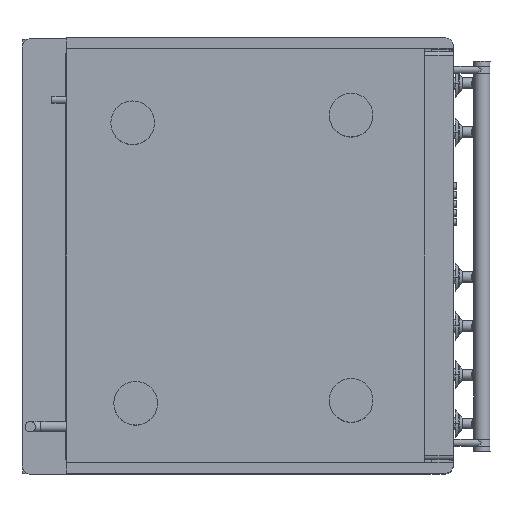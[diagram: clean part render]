
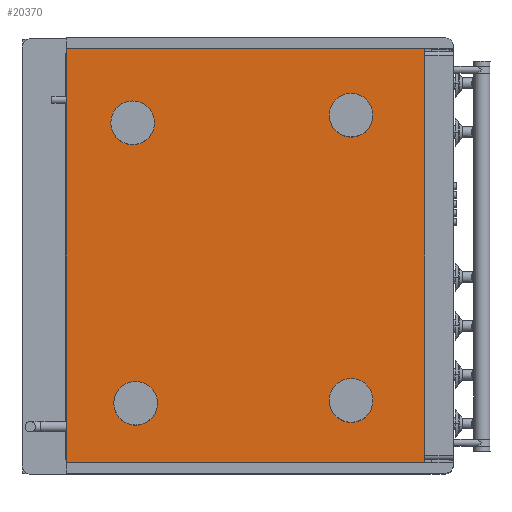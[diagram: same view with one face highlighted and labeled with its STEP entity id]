
A CAD part, top view. The second image highlights one B-rep face of the part: STEP entity #20370.
In plain terms, the highlighted planar face has unit normal (0, 0, 1).
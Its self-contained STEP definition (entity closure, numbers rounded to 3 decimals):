
#665=CIRCLE('',#21718,30.);
#666=CIRCLE('',#21719,30.);
#667=CIRCLE('',#21720,30.);
#668=CIRCLE('',#21721,30.);
#1148=PLANE('',#21717);
#2224=LINE('',#28980,#3516);
#2355=LINE('',#32001,#3647);
#2362=LINE('',#32023,#3654);
#2364=LINE('',#32067,#3656);
#3516=VECTOR('',#24681,1000.);
#3647=VECTOR('',#25440,1000.);
#3654=VECTOR('',#25461,1000.);
#3656=VECTOR('',#25493,1000.);
#7364=ORIENTED_EDGE('',*,*,#9735,.F.);
#7365=ORIENTED_EDGE('',*,*,#9736,.F.);
#7366=ORIENTED_EDGE('',*,*,#9737,.F.);
#7367=ORIENTED_EDGE('',*,*,#9738,.F.);
#7368=ORIENTED_EDGE('',*,*,#9734,.F.);
#7369=ORIENTED_EDGE('',*,*,#9723,.F.);
#7370=ORIENTED_EDGE('',*,*,#9712,.F.);
#7371=ORIENTED_EDGE('',*,*,#9347,.F.);
#9347=EDGE_CURVE('',#10935,#10936,#2224,.T.);
#9712=EDGE_CURVE('',#10936,#11202,#2355,.T.);
#9723=EDGE_CURVE('',#11202,#11211,#2362,.T.);
#9734=EDGE_CURVE('',#11211,#10935,#2364,.T.);
#9735=EDGE_CURVE('',#11221,#11221,#665,.F.);
#9736=EDGE_CURVE('',#11222,#11222,#666,.F.);
#9737=EDGE_CURVE('',#11223,#11223,#667,.F.);
#9738=EDGE_CURVE('',#11224,#11224,#668,.F.);
#10935=VERTEX_POINT('',#28979);
#10936=VERTEX_POINT('',#28981);
#11202=VERTEX_POINT('',#32000);
#11211=VERTEX_POINT('',#32024);
#11221=VERTEX_POINT('',#32070);
#11222=VERTEX_POINT('',#32072);
#11223=VERTEX_POINT('',#32074);
#11224=VERTEX_POINT('',#32076);
#12380=EDGE_LOOP('',(#7364));
#12381=EDGE_LOOP('',(#7365));
#12382=EDGE_LOOP('',(#7366));
#12383=EDGE_LOOP('',(#7367));
#12384=EDGE_LOOP('',(#7368,#7369,#7370,#7371));
#13387=FACE_BOUND('',#12380,.T.);
#13388=FACE_BOUND('',#12381,.T.);
#13389=FACE_BOUND('',#12382,.T.);
#13390=FACE_BOUND('',#12383,.T.);
#13391=FACE_BOUND('',#12384,.T.);
#20370=ADVANCED_FACE('',(#13387,#13388,#13389,#13390,#13391),#1148,.F.);
#21717=AXIS2_PLACEMENT_3D('',#32068,#25494,#25495);
#21718=AXIS2_PLACEMENT_3D('',#32069,#25496,#25497);
#21719=AXIS2_PLACEMENT_3D('',#32071,#25498,#25499);
#21720=AXIS2_PLACEMENT_3D('',#32073,#25500,#25501);
#21721=AXIS2_PLACEMENT_3D('',#32075,#25502,#25503);
#24681=DIRECTION('',(0.,1.,0.));
#25440=DIRECTION('',(1.,0.,0.));
#25461=DIRECTION('',(0.,-1.,0.));
#25493=DIRECTION('',(-1.,0.,0.));
#25494=DIRECTION('',(0.,0.,-1.));
#25495=DIRECTION('',(0.,1.,0.));
#25496=DIRECTION('',(0.,0.,-1.));
#25497=DIRECTION('',(-1.,0.,0.));
#25498=DIRECTION('',(0.,0.,-1.));
#25499=DIRECTION('',(-1.,0.,0.));
#25500=DIRECTION('',(0.,0.,-1.));
#25501=DIRECTION('',(-1.,0.,0.));
#25502=DIRECTION('',(0.,0.,-1.));
#25503=DIRECTION('',(-1.,0.,0.));
#28979=CARTESIAN_POINT('',(-531.,-583.,767.));
#28980=CARTESIAN_POINT('',(-531.,-583.,767.));
#28981=CARTESIAN_POINT('',(-531.,-15.,767.));
#32000=CARTESIAN_POINT('',(-39.,-15.,767.));
#32001=CARTESIAN_POINT('',(-531.,-15.,767.));
#32023=CARTESIAN_POINT('',(-39.,-15.,767.));
#32024=CARTESIAN_POINT('',(-39.,-583.,767.));
#32067=CARTESIAN_POINT('',(-39.,-583.,767.));
#32068=CARTESIAN_POINT('',(-285.,-299.,767.));
#32069=CARTESIAN_POINT('',(-140.149,-498.19,767.));
#32070=CARTESIAN_POINT('',(-170.149,-498.19,767.));
#32071=CARTESIAN_POINT('',(-140.239,-106.5,767.));
#32072=CARTESIAN_POINT('',(-170.239,-106.5,767.));
#32073=CARTESIAN_POINT('',(-440.053,-117.043,767.));
#32074=CARTESIAN_POINT('',(-470.053,-117.043,767.));
#32075=CARTESIAN_POINT('',(-436.,-502.022,767.));
#32076=CARTESIAN_POINT('',(-466.,-502.022,767.));
